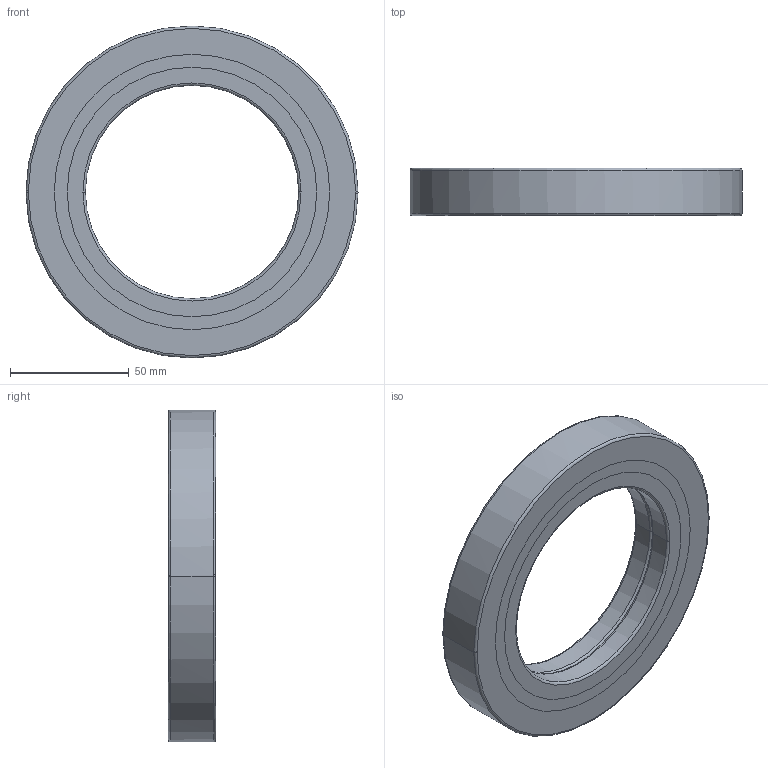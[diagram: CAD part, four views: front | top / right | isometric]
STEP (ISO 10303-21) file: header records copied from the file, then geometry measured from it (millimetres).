
FILE_DESCRIPTION(('no description'),'unknown implementation level');
FILE_NAME('CRBB09020_61.stp',' ',('HIWIN GmbH'),('CADClick - KiM GmbH - www.kimweb.de'),'unknown preprocess','ACIS','unknown authorization');
FILE_SCHEMA(('automotive_design'));
Length unit declared in the file: millimetre
Products named in the file (5): CRBB09020_1; CRBB09020_2; CRBB09020_3; CRBB09020_4; CRBB09020
Bounding box: 140 x 20 x 140 mm (x, y, z)
Volume: 148649 mm3; surface area: 56484.9 mm2
Topology: 5 solids, 5 shells, 54 faces, 120 edges, 76 vertices
Faces by surface type: torus 24, cylinder 20, plane 10
Entity records: 3096 total; most frequent: DIRECTION 338, STYLED_ITEM 255, PRESENTATION_STYLE_ASSIGNMENT 255, CARTESIAN_POINT 255, COLOUR_RGB 255, ORIENTED_EDGE 240, AXIS2_PLACEMENT_3D 159, EDGE_CURVE 120
